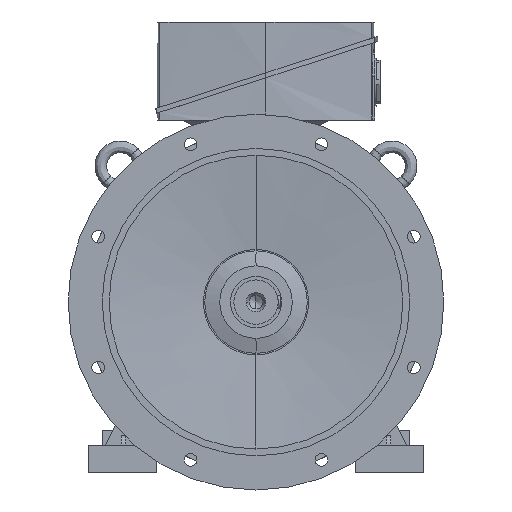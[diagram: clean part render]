
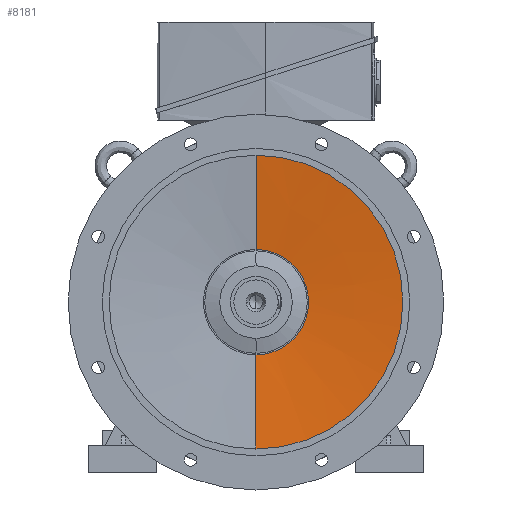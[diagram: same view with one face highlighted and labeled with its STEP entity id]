
A CAD part, left-side view. The second image highlights one B-rep face of the part: STEP entity #8181.
In plain terms, the highlighted conical face has half-angle 83.797 degrees and reference radius 215 mm.
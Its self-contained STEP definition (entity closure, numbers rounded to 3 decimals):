
#1174 = AXIS2_PLACEMENT_3D ( 'NONE', #11830, #34470, #15120 ) ;
#2354 = DIRECTION ( 'NONE',  ( -1., 0., 0. ) ) ;
#5715 = VERTEX_POINT ( 'NONE', #31861 ) ;
#8181 = ADVANCED_FACE ( 'NONE', ( #31775 ), #38341, .F. ) ;
#10534 = ORIENTED_EDGE ( 'NONE', *, *, #40320, .F. ) ;
#11830 = CARTESIAN_POINT ( 'NONE',  ( -80., 0., 0. ) ) ;
#11946 = CARTESIAN_POINT ( 'NONE',  ( -95., 0., 0. ) ) ;
#13118 = DIRECTION ( 'NONE',  ( -1., 0., 0. ) ) ;
#13553 = AXIS2_PLACEMENT_3D ( 'NONE', #32491, #13118, #35746 ) ;
#13582 = VERTEX_POINT ( 'NONE', #30713 ) ;
#13927 = CARTESIAN_POINT ( 'NONE',  ( -80., 0., -77. ) ) ;
#13987 = VERTEX_POINT ( 'NONE', #13927 ) ;
#14385 = EDGE_CURVE ( 'NONE', #13987, #13582, #33505, .T. ) ;
#14528 = CARTESIAN_POINT ( 'NONE',  ( -95., 0., 215. ) ) ;
#14808 = ORIENTED_EDGE ( 'NONE', *, *, #28926, .T. ) ;
#15120 = DIRECTION ( 'NONE',  ( 0., 0., 1. ) ) ;
#17050 = DIRECTION ( 'NONE',  ( -0.108, 0., -0.994 ) ) ;
#17644 = ORIENTED_EDGE ( 'NONE', *, *, #32152, .F. ) ;
#23419 = CARTESIAN_POINT ( 'NONE',  ( -95., 0., -215. ) ) ;
#24426 = DIRECTION ( 'NONE',  ( -0.108, 0., 0.994 ) ) ;
#24982 = DIRECTION ( 'NONE',  ( 0., 0., 1. ) ) ;
#26283 = ORIENTED_EDGE ( 'NONE', *, *, #14385, .T. ) ;
#27812 = LINE ( 'NONE', #14528, #37445 ) ;
#28338 = AXIS2_PLACEMENT_3D ( 'NONE', #11946, #2354, #24982 ) ;
#28926 = EDGE_CURVE ( 'NONE', #13582, #5715, #36335, .T. ) ;
#30713 = CARTESIAN_POINT ( 'NONE',  ( -95., 0., -215. ) ) ;
#30966 = VERTEX_POINT ( 'NONE', #35882 ) ;
#31775 = FACE_OUTER_BOUND ( 'NONE', #37508, .T. ) ;
#31861 = CARTESIAN_POINT ( 'NONE',  ( -95., 0., 215. ) ) ;
#32152 = EDGE_CURVE ( 'NONE', #13987, #30966, #41788, .T. ) ;
#32491 = CARTESIAN_POINT ( 'NONE',  ( -95., 0., 0. ) ) ;
#32497 = VECTOR ( 'NONE', #17050, 1000. ) ;
#33505 = LINE ( 'NONE', #23419, #32497 ) ;
#34470 = DIRECTION ( 'NONE',  ( -1., 0., 0. ) ) ;
#35746 = DIRECTION ( 'NONE',  ( 0., 0., 1. ) ) ;
#35882 = CARTESIAN_POINT ( 'NONE',  ( -80., 0., 77. ) ) ;
#36335 = CIRCLE ( 'NONE', #13553, 215. ) ;
#37445 = VECTOR ( 'NONE', #24426, 1000. ) ;
#37508 = EDGE_LOOP ( 'NONE', ( #17644, #26283, #14808, #10534 ) ) ;
#38341 = CONICAL_SURFACE ( 'NONE', #28338, 215., 1.463 ) ;
#40320 = EDGE_CURVE ( 'NONE', #30966, #5715, #27812, .T. ) ;
#41788 = CIRCLE ( 'NONE', #1174, 77. ) ;
